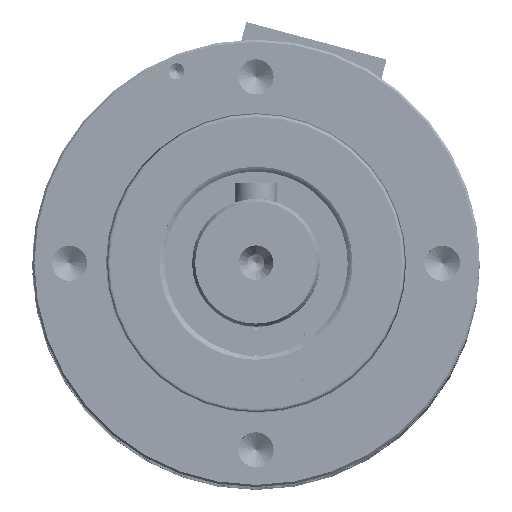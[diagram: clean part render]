
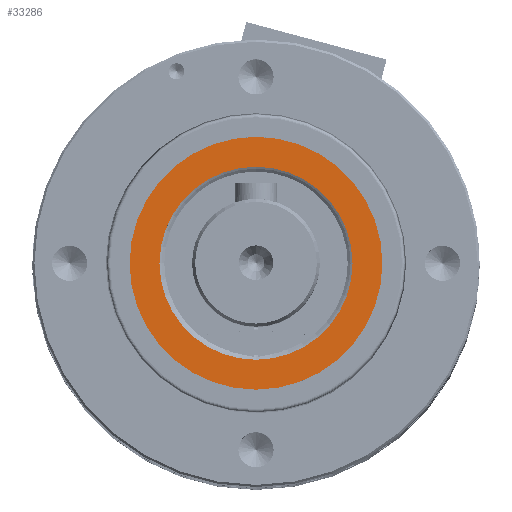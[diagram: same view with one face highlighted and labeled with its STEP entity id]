
A CAD part, top view. The second image highlights one B-rep face of the part: STEP entity #33286.
In plain terms, the highlighted planar face has unit normal (0, 0, 1).
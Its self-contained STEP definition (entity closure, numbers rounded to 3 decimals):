
#14338 = DIRECTION ( 'NONE',  ( 0., 0., 1. ) ) ;
#28982 = AXIS2_PLACEMENT_3D ( 'NONE', #145046, #31382, #230299 ) ;
#31382 = DIRECTION ( 'NONE',  ( 0., 0., -1. ) ) ;
#33022 = ORIENTED_EDGE ( 'NONE', *, *, #187839, .F. ) ;
#33286 = ADVANCED_FACE ( 'NONE', ( #88348, #114925 ), #372645, .T. ) ;
#54273 = EDGE_LOOP ( 'NONE', ( #198754, #154782 ) ) ;
#59644 = EDGE_CURVE ( 'NONE', #261002, #187696, #334957, .T. ) ;
#59829 = DIRECTION ( 'NONE',  ( 1., 0., 0. ) ) ;
#61672 = CARTESIAN_POINT ( 'NONE',  ( -3.929, -8.599, 138.685 ) ) ;
#88348 = FACE_BOUND ( 'NONE', #54273, .T. ) ;
#91730 = ORIENTED_EDGE ( 'NONE', *, *, #101141, .T. ) ;
#95918 = AXIS2_PLACEMENT_3D ( 'NONE', #183145, #270461, #179366 ) ;
#101141 = EDGE_CURVE ( 'NONE', #265155, #165220, #343891, .T. ) ;
#114925 = FACE_OUTER_BOUND ( 'NONE', #132261, .T. ) ;
#115454 = CARTESIAN_POINT ( 'NONE',  ( 14.191, -8.599, 138.685 ) ) ;
#124893 = AXIS2_PLACEMENT_3D ( 'NONE', #203732, #319477, #59829 ) ;
#129987 = DIRECTION ( 'NONE',  ( 1., 0., 0. ) ) ;
#132261 = EDGE_LOOP ( 'NONE', ( #33022, #91730 ) ) ;
#145046 = CARTESIAN_POINT ( 'NONE',  ( 5.131, -8.599, 138.685 ) ) ;
#154782 = ORIENTED_EDGE ( 'NONE', *, *, #298972, .T. ) ;
#165220 = VERTEX_POINT ( 'NONE', #283667 ) ;
#172688 = CIRCLE ( 'NONE', #287774, 11.865 ) ;
#179366 = DIRECTION ( 'NONE',  ( 1., 0., 0. ) ) ;
#181071 = CARTESIAN_POINT ( 'NONE',  ( 5.131, -8.599, 138.685 ) ) ;
#183145 = CARTESIAN_POINT ( 'NONE',  ( 5.131, -8.599, 138.685 ) ) ;
#187696 = VERTEX_POINT ( 'NONE', #61672 ) ;
#187839 = EDGE_CURVE ( 'NONE', #265155, #165220, #172688, .T. ) ;
#198754 = ORIENTED_EDGE ( 'NONE', *, *, #59644, .F. ) ;
#203732 = CARTESIAN_POINT ( 'NONE',  ( 5.131, -8.599, 138.685 ) ) ;
#210609 = CIRCLE ( 'NONE', #28982, 9.06 ) ;
#230299 = DIRECTION ( 'NONE',  ( 1., 0., 0. ) ) ;
#238069 = AXIS2_PLACEMENT_3D ( 'NONE', #181071, #14338, #129987 ) ;
#246539 = CARTESIAN_POINT ( 'NONE',  ( 16.996, -8.599, 138.685 ) ) ;
#261002 = VERTEX_POINT ( 'NONE', #115454 ) ;
#265155 = VERTEX_POINT ( 'NONE', #246539 ) ;
#266297 = DIRECTION ( 'NONE',  ( 0., 0., -1. ) ) ;
#270461 = DIRECTION ( 'NONE',  ( 0., 0., 1. ) ) ;
#283667 = CARTESIAN_POINT ( 'NONE',  ( -6.734, -8.599, 138.685 ) ) ;
#287774 = AXIS2_PLACEMENT_3D ( 'NONE', #359078, #266297, #332458 ) ;
#298972 = EDGE_CURVE ( 'NONE', #261002, #187696, #210609, .T. ) ;
#319477 = DIRECTION ( 'NONE',  ( 0., 0., 1. ) ) ;
#332458 = DIRECTION ( 'NONE',  ( 1., 0., 0. ) ) ;
#334957 = CIRCLE ( 'NONE', #238069, 9.06 ) ;
#343891 = CIRCLE ( 'NONE', #95918, 11.865 ) ;
#359078 = CARTESIAN_POINT ( 'NONE',  ( 5.131, -8.599, 138.685 ) ) ;
#372645 = PLANE ( 'NONE',  #124893 ) ;
